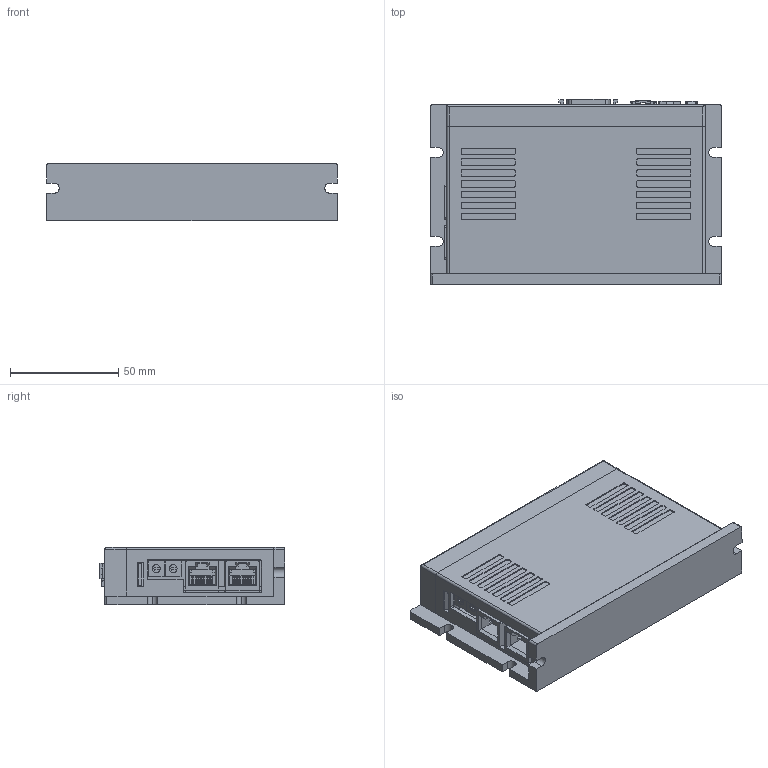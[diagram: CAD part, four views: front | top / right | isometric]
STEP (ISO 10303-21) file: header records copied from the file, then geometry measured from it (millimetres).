
FILE_DESCRIPTION (( 'STEP AP203' ), '1' );
FILE_NAME ('P1J-DR-000-01-R00.STEP', '2017-04-26T02:40:47', ( '' ), ( '' ), 'SwSTEP 2.0', 'SolidWorks 2013', '' );
FILE_SCHEMA (( 'CONFIG_CONTROL_DESIGN' ));
Length unit declared in the file: millimetre
Products named in the file (20): 14; 3; Ezi_SERVO_2 ST PCB; countersunk flat cross head screw_ks_KS 1023 FC- M2.6 x 14-N; 4; Ezi_SERVO_2 PR PCB; P1J-DR-000-01-R00; 5; Part1; Part1_4; Part1_2; 7; Part1_3; 9; 1; M1J-DR-000-01-R00; 2; M1J-DR-000-02-R00; MSBR; M1A-DR-000-01-R00
Assembly tree (25 placements, depth 3):
  P1J-DR-000-01-R00
    M1A-DR-000-01-R00
    Ezi_SERVO_2 ST PCB
    Ezi_SERVO_2 PR PCB
    1
      Part1
      Part1_2
      Part1_3
    2
    3
      MSBR
    4
    5  x2
    7  x2
      Part1_4
    9
    M1J-DR-000-01-R00
    M1J-DR-000-02-R00
    14  x2
    countersunk flat cross head screw_ks_KS 1023 FC- M2.6 x 14-N  x4
Bounding box: 134 x 85.5 x 26.5 mm (x, y, z)
Volume: 108190.3 mm3; surface area: 103062.3 mm2
Topology: 21 solids, 22 shells, 2695 faces, 7300 edges, 4760 vertices
Faces by surface type: plane 2087, cylinder 530, cone 68, torus 10
Entity records: 72463 total; most frequent: CARTESIAN_POINT 13038, ORIENTED_EDGE 12056, DIRECTION 11469, EDGE_CURVE 6032, VECTOR 4993, LINE 4993, VERTEX_POINT 3951, AXIS2_PLACEMENT_3D 3238
